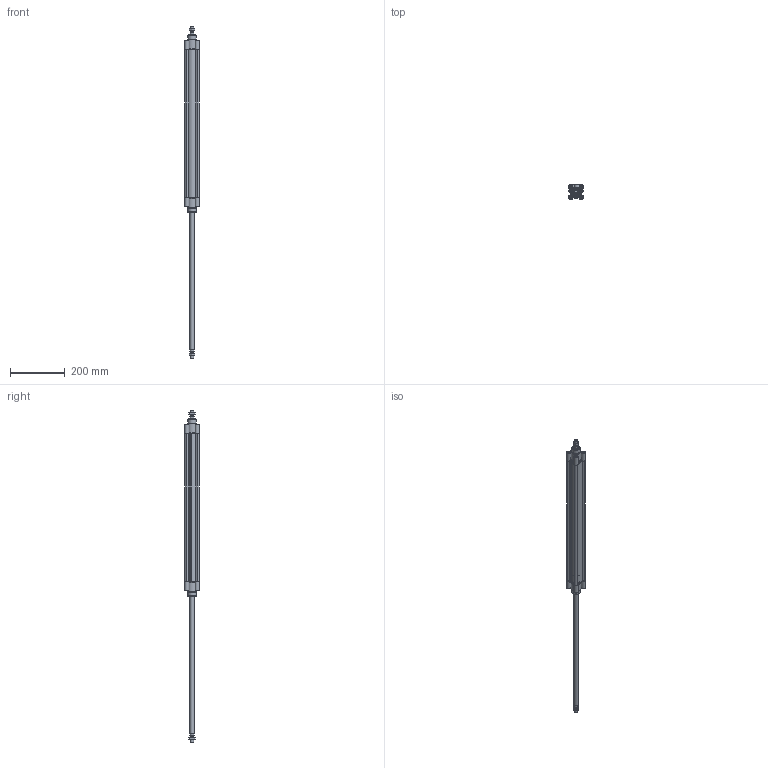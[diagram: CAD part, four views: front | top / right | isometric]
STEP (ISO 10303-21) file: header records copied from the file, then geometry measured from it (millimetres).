
FILE_DESCRIPTION((''),'2;1');
FILE_NAME('I:\Area Tecnica\Disegni\VARIE-3D\Componenti\ECOLIGHT\02\stp\139#_40_0500_02.iam.stp','2012-01-28T09:39:22',(''),(''),'Autodesk Inventor 2012','Autodesk Inventor 2012','');
FILE_SCHEMA(('AUTOMOTIVE_DESIGN { 1 0 10303 214 1 1 1 1 }'));
Length unit declared in the file: millimetre
Products named in the file (5): 139#_40_0500_02; CPL040_004-500; CPL040-001-01; CPL_40SP_0500; 1320_40_18F
Assembly tree (6 placements, depth 2):
  139#_40_0500_02
    CPL040_004-500
    CPL040-001-01  x2
    CPL_40SP_0500
    1320_40_18F  x2
Bounding box: 54 x 54 x 1213 mm (x, y, z)
Volume: 771443.2 mm3; surface area: 394583.2 mm2
Topology: 6 solids, 6 shells, 351 faces, 860 edges, 564 vertices
Faces by surface type: plane 211, cylinder 98, cone 40, torus 2
Full cylindrical faces by diameter (mm): 5 x8, 5.5 x4, 8 x2, 10 x8, 10.5 x10, 10.8 x2, 11.6 x2, 12 x2, 15.5 x2, 16 x4, 30 x2, 35 x2, 40 x4
Entity records: 7104 total; most frequent: CARTESIAN_POINT 1295, DIRECTION 1162, ORIENTED_EDGE 1084, EDGE_CURVE 542, AXIS2_PLACEMENT_3D 413, VERTEX_POINT 380, VECTOR 336, LINE 336
